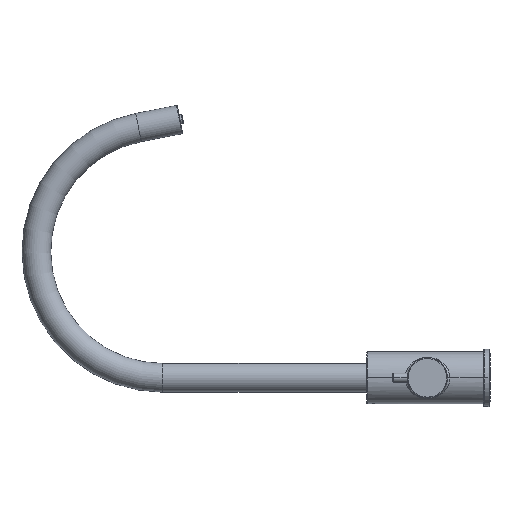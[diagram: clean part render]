
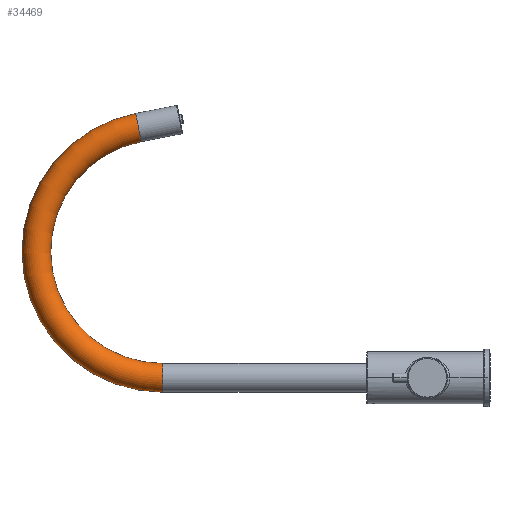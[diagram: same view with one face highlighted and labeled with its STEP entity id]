
A CAD part, left-side view. The second image highlights one B-rep face of the part: STEP entity #34469.
In plain terms, the highlighted toroidal (fillet/blend) face has major radius 110 mm and minor radius 12.5 mm.
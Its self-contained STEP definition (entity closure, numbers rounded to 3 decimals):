
#33985=CARTESIAN_POINT('',(110.,198.,0.));
#33986=DIRECTION('',(0.,0.,-1.));
#33987=DIRECTION('',(-1.,0.,0.));
#33988=AXIS2_PLACEMENT_3D('',#33985,#33986,#33987);
#33990=CARTESIAN_POINT('',(0.,198.,0.));
#33991=DIRECTION('',(0.,1.,0.));
#33992=DIRECTION('',(-1.,0.,0.));
#33993=AXIS2_PLACEMENT_3D('',#33990,#33991,#33992);
#33995=CARTESIAN_POINT('',(110.,198.,0.));
#33996=DIRECTION('',(0.,0.,-1.));
#33997=DIRECTION('',(-1.,0.,0.));
#33998=AXIS2_PLACEMENT_3D('',#33995,#33996,#33997);
#34005=CARTESIAN_POINT('',(217.965,219.063,0.));
#34006=DIRECTION('',(0.191,-0.981,0.));
#34007=DIRECTION('',(0.981,0.191,0.));
#34008=AXIS2_PLACEMENT_3D('',#34005,#34006,#34007);
#34076=CARTESIAN_POINT('',(-12.5,198.,0.));
#34077=CARTESIAN_POINT('',(12.5,198.,0.));
#34078=VERTEX_POINT('',#34076);
#34079=VERTEX_POINT('',#34077);
#34080=CARTESIAN_POINT('',(230.233,221.456,0.));
#34081=CARTESIAN_POINT('',(205.696,216.669,0.));
#34082=VERTEX_POINT('',#34080);
#34083=VERTEX_POINT('',#34081);
#34457=CARTESIAN_POINT('',(110.,198.,0.));
#34458=DIRECTION('',(0.,0.,-1.));
#34459=DIRECTION('',(1.,0.,0.));
#34460=AXIS2_PLACEMENT_3D('',#34457,#34458,#34459);
#34461=TOROIDAL_SURFACE('',#34460,110.,12.5);
#34462=ORIENTED_EDGE('',*,*,#34233,.F.);
#34463=ORIENTED_EDGE('',*,*,#34452,.T.);
#34465=ORIENTED_EDGE('',*,*,#34464,.T.);
#34466=ORIENTED_EDGE('',*,*,#34448,.F.);
#34467=EDGE_LOOP('',(#34462,#34463,#34465,#34466));
#34468=FACE_OUTER_BOUND('',#34467,.F.);
#33989=CIRCLE('',#33988,97.5);
#33994=CIRCLE('',#33993,12.5);
#33999=CIRCLE('',#33998,122.5);
#34009=CIRCLE('',#34008,12.5);
#34233=EDGE_CURVE('',#34078,#34079,#33994,.T.);
#34448=EDGE_CURVE('',#34079,#34083,#33989,.T.);
#34452=EDGE_CURVE('',#34078,#34082,#33999,.T.);
#34464=EDGE_CURVE('',#34082,#34083,#34009,.T.);
#34469=ADVANCED_FACE('',(#34468),#34461,.T.);
